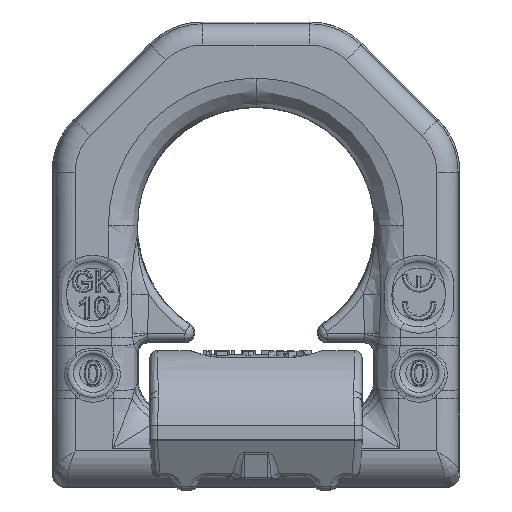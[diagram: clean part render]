
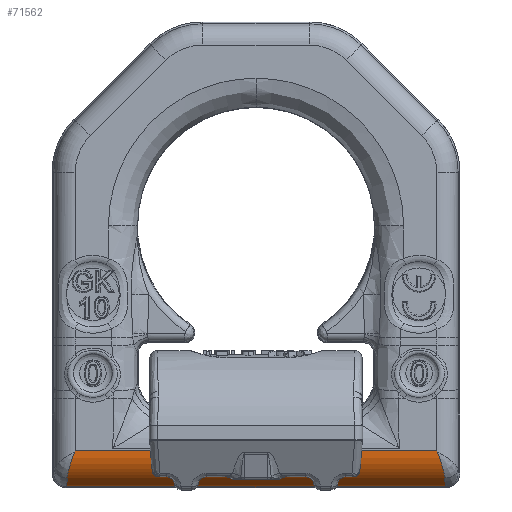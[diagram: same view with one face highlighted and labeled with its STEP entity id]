
A CAD part, left-side view. The second image highlights one B-rep face of the part: STEP entity #71562.
In plain terms, the highlighted cylindrical face has radius 7.25 mm (diameter 14.5 mm), a partial arc.
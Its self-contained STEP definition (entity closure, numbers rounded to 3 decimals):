
#63429=CARTESIAN_POINT('',(-2.417,-35.979,
-7.394));
#63430=VERTEX_POINT('Vertex1524',#63429);
#66086=CARTESIAN_POINT('',(-5.08,-35.888,
-5.731));
#66087=VERTEX_POINT('Vertex1538',#66086);
#66095=CARTESIAN_POINT('',(0.,-36.062,
-0.558));
#66096=DIRECTION('',(-0.034,-0.999,
0.));
#66097=DIRECTION('',(-0.999,0.034,
0.));
#66098=AXIS2_PLACEMENT_3D('',#66095,#66096,#66097);
#66099=ELLIPSE('nurbsCrv2425',#66098,7.254,7.25);
#66100=EDGE_CURVE('Edge2425',#66087,#63430,#66099,.T.);
#66142=CARTESIAN_POINT('',(-7.25,-34.39,-0.558));
#66143=VERTEX_POINT('Vertex1539',#66142);
#66159=CARTESIAN_POINT('',(-7.25,-34.39,-0.558));
#66160=CARTESIAN_POINT('',(-7.25,-34.391,-0.561));
#66161=CARTESIAN_POINT('',(-7.25,-34.392,
-0.564));
#66162=CARTESIAN_POINT('',(-7.249,-34.617,-1.177
));
#66163=CARTESIAN_POINT('',(-7.172,-34.844,
-1.791));
#66164=CARTESIAN_POINT('',(-6.86,-35.258,
-2.982));
#66165=CARTESIAN_POINT('',(-6.628,-35.449,
-3.566));
#66166=CARTESIAN_POINT('',(-6.113,-35.696,
-4.476));
#66167=CARTESIAN_POINT('',(-5.883,-35.775,-4.817
));
#66168=CARTESIAN_POINT('',(-5.45,-35.859,
-5.347));
#66169=CARTESIAN_POINT('',(-5.27,-35.881,-5.544
));
#66170=CARTESIAN_POINT('',(-5.08,-35.888,
-5.731));
#66171=B_SPLINE_CURVE_WITH_KNOTS('nurbsCrv2427',3,(#66159,#66160,#66161,#66162,
#66163,#66164,#66165,#66166,#66167,#66168,#66169,#66170),.UNSPECIFIED.,.F.,.F.,
(4,2,2,2,2,4),(-4.081,-4.074,-2.699,
-1.36,-0.523,0.),.UNSPECIFIED.);
#66172=EDGE_CURVE('Edge2427',#66143,#66087,#66171,.T.);
#68836=CARTESIAN_POINT('',(-2.417,35.979,-7.394
));
#68837=VERTEX_POINT('Vertex1590',#68836);
#68838=CARTESIAN_POINT('',(-2.417,0.,-7.394));
#68839=DIRECTION('',(0.,1.,0.));
#68840=VECTOR('',#68839,1.);
#68841=LINE('nurbsCrv2513',#68838,#68840);
#68842=EDGE_CURVE('Edge2513',#63430,#68837,#68841,.T.);
#71473=CARTESIAN_POINT('',(-7.25,34.39,-0.558));
#71474=VERTEX_POINT('Vertex1611',#71473);
#71481=CARTESIAN_POINT('',(-7.25,0.,-0.558));
#71482=DIRECTION('',(0.,-1.,0.));
#71483=VECTOR('',#71482,1.);
#71484=LINE('nurbsCrv2564',#71481,#71483);
#71485=EDGE_CURVE('Edge2564',#71474,#66143,#71484,.T.);
#71527=ORIENTED_EDGE('Edgeuse5017',*,*,#68842,.F.);
#71528=ORIENTED_EDGE('Edgeuse5018',*,*,#66100,.F.);
#71529=ORIENTED_EDGE('Edgeuse5019',*,*,#66172,.F.);
#71530=ORIENTED_EDGE('Edgeuse5020',*,*,#71485,.F.);
#71531=CARTESIAN_POINT('',(-5.08,35.888,-5.731
));
#71532=VERTEX_POINT('Vertex1613',#71531);
#71533=CARTESIAN_POINT('',(-7.25,34.39,-0.558));
#71534=CARTESIAN_POINT('',(-7.25,34.391,-0.561));
#71535=CARTESIAN_POINT('',(-7.25,34.392,-0.564
));
#71536=CARTESIAN_POINT('',(-7.249,34.617,-1.177)
);
#71537=CARTESIAN_POINT('',(-7.172,34.844,-1.791
));
#71538=CARTESIAN_POINT('',(-6.86,35.258,-2.982
));
#71539=CARTESIAN_POINT('',(-6.628,35.449,-3.566
));
#71540=CARTESIAN_POINT('',(-6.113,35.696,-4.476
));
#71541=CARTESIAN_POINT('',(-5.883,35.775,-4.817)
);
#71542=CARTESIAN_POINT('',(-5.45,35.859,-5.347
));
#71543=CARTESIAN_POINT('',(-5.27,35.881,-5.544)
);
#71544=CARTESIAN_POINT('',(-5.08,35.888,-5.731
));
#71545=B_SPLINE_CURVE_WITH_KNOTS('nurbsCrv2567',3,(#71533,#71534,#71535,#71536,
#71537,#71538,#71539,#71540,#71541,#71542,#71543,#71544),.UNSPECIFIED.,.F.,.F.,
(4,2,2,2,2,4),(-4.081,-4.074,-2.699,
-1.36,-0.523,0.),.UNSPECIFIED.);
#71546=EDGE_CURVE('Edge2567',#71474,#71532,#71545,.T.);
#71547=ORIENTED_EDGE('Edgeuse5021',*,*,#71546,.T.);
#71548=CARTESIAN_POINT('',(0.,36.062,
-0.558));
#71549=DIRECTION('',(0.034,-0.999,
0.));
#71550=DIRECTION('',(-0.999,-0.034,
0.));
#71551=AXIS2_PLACEMENT_3D('',#71548,#71549,#71550);
#71552=ELLIPSE('nurbsCrv2568',#71551,7.254,7.25);
#71553=EDGE_CURVE('Edge2568',#71532,#68837,#71552,.T.);
#71554=ORIENTED_EDGE('Edgeuse5022',*,*,#71553,.T.);
#71555=EDGE_LOOP('',(#71527,#71528,#71529,#71530,#71547,#71554));
#71556=FACE_OUTER_BOUND('',#71555,.T.);
#71557=CARTESIAN_POINT('',(0.,39.577,
-0.558));
#71558=DIRECTION('',(0.,-1.,0.));
#71559=DIRECTION('',(0.816,0.,0.577
));
#71560=AXIS2_PLACEMENT_3D('',#71557,#71558,#71559);
#71561=CYLINDRICAL_SURFACE('nurbsSrf986',#71560,7.25);
#71562=ADVANCED_FACE('Face986',(#71556),#71561,.T.);
